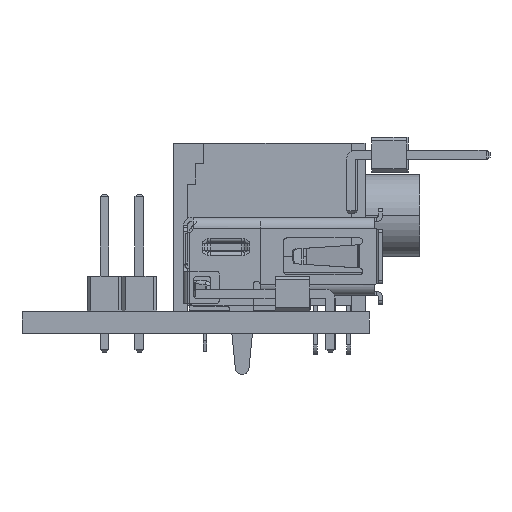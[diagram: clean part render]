
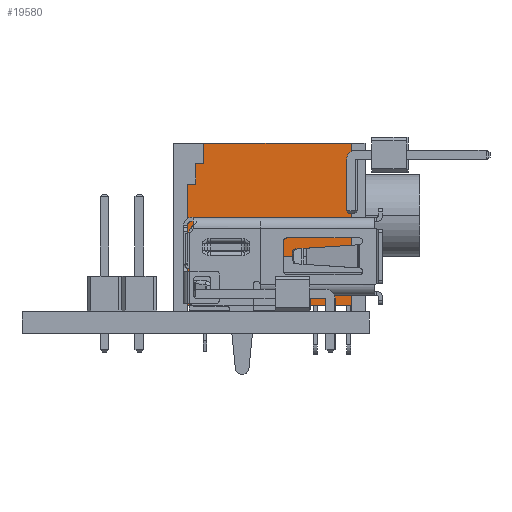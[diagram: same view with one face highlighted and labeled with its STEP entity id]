
A CAD part, left-side view. The second image highlights one B-rep face of the part: STEP entity #19580.
In plain terms, the highlighted planar face has unit normal (-1, 0, 0) as drawn and (0, 1, 0) by its records, which use the part's own axes.
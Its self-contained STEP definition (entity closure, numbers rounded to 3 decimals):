
#18577 = PLANE('',#18578);
#18578 = AXIS2_PLACEMENT_3D('',#18579,#18580,#18581);
#18579 = CARTESIAN_POINT('',(13.,-5.062,7.246));
#18580 = DIRECTION('',(1.,-0.,0.));
#18581 = DIRECTION('',(0.,0.,-1.));
#18605 = PLANE('',#18606);
#18606 = AXIS2_PLACEMENT_3D('',#18607,#18608,#18609);
#18607 = CARTESIAN_POINT('',(13.24,-5.058,6.6));
#18608 = DIRECTION('',(0.,0.,-1.));
#18609 = DIRECTION('',(-1.,0.,0.));
#18633 = PLANE('',#18634);
#18634 = AXIS2_PLACEMENT_3D('',#18635,#18636,#18637);
#18635 = CARTESIAN_POINT('',(1.,-5.062,-2.486));
#18636 = DIRECTION('',(-1.,0.,0.));
#18637 = DIRECTION('',(0.,0.,1.));
#18717 = PLANE('',#18718);
#18718 = AXIS2_PLACEMENT_3D('',#18719,#18720,#18721);
#18719 = CARTESIAN_POINT('',(-0.28,-5.062,-5.3));
#18720 = DIRECTION('',(0.,0.,-1.));
#18721 = DIRECTION('',(0.,1.,0.));
#18861 = VERTEX_POINT('',#18862);
#18862 = CARTESIAN_POINT('',(2.2,3.,-5.3));
#18876 = PLANE('',#18877);
#18877 = AXIS2_PLACEMENT_3D('',#18878,#18879,#18880);
#18878 = CARTESIAN_POINT('',(2.2,2.942,-5.358));
#18879 = DIRECTION('',(-1.,0.,0.));
#18880 = DIRECTION('',(0.,0.,1.));
#18888 = EDGE_CURVE('',#18861,#18889,#18891,.T.);
#18889 = VERTEX_POINT('',#18890);
#18890 = CARTESIAN_POINT('',(13.,3.,-5.3));
#18891 = SURFACE_CURVE('',#18892,(#18896,#18903),.PCURVE_S1.);
#18892 = LINE('',#18893,#18894);
#18893 = CARTESIAN_POINT('',(7.,3.,-5.3));
#18894 = VECTOR('',#18895,1.);
#18895 = DIRECTION('',(1.,0.,0.));
#18896 = PCURVE('',#18717,#18897);
#18897 = DEFINITIONAL_REPRESENTATION('',(#18898),#18902);
#18898 = LINE('',#18899,#18900);
#18899 = CARTESIAN_POINT('',(8.062,7.28));
#18900 = VECTOR('',#18901,1.);
#18901 = DIRECTION('',(0.,1.));
#18902 = ( GEOMETRIC_REPRESENTATION_CONTEXT(2) 
PARAMETRIC_REPRESENTATION_CONTEXT() REPRESENTATION_CONTEXT('2D SPACE',''
  ) );
#18903 = PCURVE('',#18904,#18909);
#18904 = PLANE('',#18905);
#18905 = AXIS2_PLACEMENT_3D('',#18906,#18907,#18908);
#18906 = CARTESIAN_POINT('',(0.76,3.,6.838));
#18907 = DIRECTION('',(-0.,1.,0.));
#18908 = DIRECTION('',(1.,0.,0.));
#18909 = DEFINITIONAL_REPRESENTATION('',(#18910),#18914);
#18910 = LINE('',#18911,#18912);
#18911 = CARTESIAN_POINT('',(6.24,12.138));
#18912 = VECTOR('',#18913,1.);
#18913 = DIRECTION('',(1.,0.));
#18914 = ( GEOMETRIC_REPRESENTATION_CONTEXT(2) 
PARAMETRIC_REPRESENTATION_CONTEXT() REPRESENTATION_CONTEXT('2D SPACE',''
  ) );
#19406 = VERTEX_POINT('',#19407);
#19407 = CARTESIAN_POINT('',(13.,3.,6.6));
#19430 = VERTEX_POINT('',#19431);
#19431 = CARTESIAN_POINT('',(1.,3.,6.6));
#19452 = EDGE_CURVE('',#19430,#19406,#19453,.T.);
#19453 = SURFACE_CURVE('',#19454,(#19458,#19465),.PCURVE_S1.);
#19454 = LINE('',#19455,#19456);
#19455 = CARTESIAN_POINT('',(7.,3.,6.6));
#19456 = VECTOR('',#19457,1.);
#19457 = DIRECTION('',(1.,-0.,-0.));
#19458 = PCURVE('',#18605,#19459);
#19459 = DEFINITIONAL_REPRESENTATION('',(#19460),#19464);
#19460 = LINE('',#19461,#19462);
#19461 = CARTESIAN_POINT('',(6.24,8.058));
#19462 = VECTOR('',#19463,1.);
#19463 = DIRECTION('',(-1.,0.));
#19464 = ( GEOMETRIC_REPRESENTATION_CONTEXT(2) 
PARAMETRIC_REPRESENTATION_CONTEXT() REPRESENTATION_CONTEXT('2D SPACE',''
  ) );
#19465 = PCURVE('',#18904,#19466);
#19466 = DEFINITIONAL_REPRESENTATION('',(#19467),#19471);
#19467 = LINE('',#19468,#19469);
#19468 = CARTESIAN_POINT('',(6.24,0.238));
#19469 = VECTOR('',#19470,1.);
#19470 = DIRECTION('',(1.,0.));
#19471 = ( GEOMETRIC_REPRESENTATION_CONTEXT(2) 
PARAMETRIC_REPRESENTATION_CONTEXT() REPRESENTATION_CONTEXT('2D SPACE',''
  ) );
#19580 = ADVANCED_FACE('',(#19581),#18904,.T.);
#19581 = FACE_BOUND('',#19582,.T.);
#19582 = EDGE_LOOP('',(#19583,#19606,#19607,#19628,#19629,#19652,#19680,
    #19708));
#19583 = ORIENTED_EDGE('',*,*,#19584,.T.);
#19584 = EDGE_CURVE('',#19585,#19430,#19587,.T.);
#19585 = VERTEX_POINT('',#19586);
#19586 = CARTESIAN_POINT('',(1.,3.,-2.3));
#19587 = SURFACE_CURVE('',#19588,(#19592,#19599),.PCURVE_S1.);
#19588 = LINE('',#19589,#19590);
#19589 = CARTESIAN_POINT('',(1.,3.,0.65));
#19590 = VECTOR('',#19591,1.);
#19591 = DIRECTION('',(-0.,-0.,1.));
#19592 = PCURVE('',#18904,#19593);
#19593 = DEFINITIONAL_REPRESENTATION('',(#19594),#19598);
#19594 = LINE('',#19595,#19596);
#19595 = CARTESIAN_POINT('',(0.24,6.188));
#19596 = VECTOR('',#19597,1.);
#19597 = DIRECTION('',(0.,-1.));
#19598 = ( GEOMETRIC_REPRESENTATION_CONTEXT(2) 
PARAMETRIC_REPRESENTATION_CONTEXT() REPRESENTATION_CONTEXT('2D SPACE',''
  ) );
#19599 = PCURVE('',#18633,#19600);
#19600 = DEFINITIONAL_REPRESENTATION('',(#19601),#19605);
#19601 = LINE('',#19602,#19603);
#19602 = CARTESIAN_POINT('',(3.136,8.062));
#19603 = VECTOR('',#19604,1.);
#19604 = DIRECTION('',(1.,0.));
#19605 = ( GEOMETRIC_REPRESENTATION_CONTEXT(2) 
PARAMETRIC_REPRESENTATION_CONTEXT() REPRESENTATION_CONTEXT('2D SPACE',''
  ) );
#19606 = ORIENTED_EDGE('',*,*,#19452,.T.);
#19607 = ORIENTED_EDGE('',*,*,#19608,.T.);
#19608 = EDGE_CURVE('',#19406,#18889,#19609,.T.);
#19609 = SURFACE_CURVE('',#19610,(#19614,#19621),.PCURVE_S1.);
#19610 = LINE('',#19611,#19612);
#19611 = CARTESIAN_POINT('',(13.,3.,0.65));
#19612 = VECTOR('',#19613,1.);
#19613 = DIRECTION('',(0.,0.,-1.));
#19614 = PCURVE('',#18904,#19615);
#19615 = DEFINITIONAL_REPRESENTATION('',(#19616),#19620);
#19616 = LINE('',#19617,#19618);
#19617 = CARTESIAN_POINT('',(12.24,6.188));
#19618 = VECTOR('',#19619,1.);
#19619 = DIRECTION('',(0.,1.));
#19620 = ( GEOMETRIC_REPRESENTATION_CONTEXT(2) 
PARAMETRIC_REPRESENTATION_CONTEXT() REPRESENTATION_CONTEXT('2D SPACE',''
  ) );
#19621 = PCURVE('',#18577,#19622);
#19622 = DEFINITIONAL_REPRESENTATION('',(#19623),#19627);
#19623 = LINE('',#19624,#19625);
#19624 = CARTESIAN_POINT('',(6.596,8.062));
#19625 = VECTOR('',#19626,1.);
#19626 = DIRECTION('',(1.,0.));
#19627 = ( GEOMETRIC_REPRESENTATION_CONTEXT(2) 
PARAMETRIC_REPRESENTATION_CONTEXT() REPRESENTATION_CONTEXT('2D SPACE',''
  ) );
#19628 = ORIENTED_EDGE('',*,*,#18888,.F.);
#19629 = ORIENTED_EDGE('',*,*,#19630,.T.);
#19630 = EDGE_CURVE('',#18861,#19631,#19633,.T.);
#19631 = VERTEX_POINT('',#19632);
#19632 = CARTESIAN_POINT('',(2.2,3.,-3.8));
#19633 = SURFACE_CURVE('',#19634,(#19638,#19645),.PCURVE_S1.);
#19634 = LINE('',#19635,#19636);
#19635 = CARTESIAN_POINT('',(2.2,3.,0.65));
#19636 = VECTOR('',#19637,1.);
#19637 = DIRECTION('',(-0.,-0.,1.));
#19638 = PCURVE('',#18904,#19639);
#19639 = DEFINITIONAL_REPRESENTATION('',(#19640),#19644);
#19640 = LINE('',#19641,#19642);
#19641 = CARTESIAN_POINT('',(1.44,6.188));
#19642 = VECTOR('',#19643,1.);
#19643 = DIRECTION('',(0.,-1.));
#19644 = ( GEOMETRIC_REPRESENTATION_CONTEXT(2) 
PARAMETRIC_REPRESENTATION_CONTEXT() REPRESENTATION_CONTEXT('2D SPACE',''
  ) );
#19645 = PCURVE('',#18876,#19646);
#19646 = DEFINITIONAL_REPRESENTATION('',(#19647),#19651);
#19647 = LINE('',#19648,#19649);
#19648 = CARTESIAN_POINT('',(6.008,0.058));
#19649 = VECTOR('',#19650,1.);
#19650 = DIRECTION('',(1.,0.));
#19651 = ( GEOMETRIC_REPRESENTATION_CONTEXT(2) 
PARAMETRIC_REPRESENTATION_CONTEXT() REPRESENTATION_CONTEXT('2D SPACE',''
  ) );
#19652 = ORIENTED_EDGE('',*,*,#19653,.T.);
#19653 = EDGE_CURVE('',#19631,#19654,#19656,.T.);
#19654 = VERTEX_POINT('',#19655);
#19655 = CARTESIAN_POINT('',(1.6,3.,-3.8));
#19656 = SURFACE_CURVE('',#19657,(#19661,#19668),.PCURVE_S1.);
#19657 = LINE('',#19658,#19659);
#19658 = CARTESIAN_POINT('',(7.,3.,-3.8));
#19659 = VECTOR('',#19660,1.);
#19660 = DIRECTION('',(-1.,-0.,-0.));
#19661 = PCURVE('',#18904,#19662);
#19662 = DEFINITIONAL_REPRESENTATION('',(#19663),#19667);
#19663 = LINE('',#19664,#19665);
#19664 = CARTESIAN_POINT('',(6.24,10.638));
#19665 = VECTOR('',#19666,1.);
#19666 = DIRECTION('',(-1.,0.));
#19667 = ( GEOMETRIC_REPRESENTATION_CONTEXT(2) 
PARAMETRIC_REPRESENTATION_CONTEXT() REPRESENTATION_CONTEXT('2D SPACE',''
  ) );
#19668 = PCURVE('',#19669,#19674);
#19669 = PLANE('',#19670);
#19670 = AXIS2_PLACEMENT_3D('',#19671,#19672,#19673);
#19671 = CARTESIAN_POINT('',(2.258,2.942,-3.8));
#19672 = DIRECTION('',(0.,0.,-1.));
#19673 = DIRECTION('',(-1.,0.,0.));
#19674 = DEFINITIONAL_REPRESENTATION('',(#19675),#19679);
#19675 = LINE('',#19676,#19677);
#19676 = CARTESIAN_POINT('',(-4.742,0.058));
#19677 = VECTOR('',#19678,1.);
#19678 = DIRECTION('',(1.,0.));
#19679 = ( GEOMETRIC_REPRESENTATION_CONTEXT(2) 
PARAMETRIC_REPRESENTATION_CONTEXT() REPRESENTATION_CONTEXT('2D SPACE',''
  ) );
#19680 = ORIENTED_EDGE('',*,*,#19681,.T.);
#19681 = EDGE_CURVE('',#19654,#19682,#19684,.T.);
#19682 = VERTEX_POINT('',#19683);
#19683 = CARTESIAN_POINT('',(1.6,3.,-2.3));
#19684 = SURFACE_CURVE('',#19685,(#19689,#19696),.PCURVE_S1.);
#19685 = LINE('',#19686,#19687);
#19686 = CARTESIAN_POINT('',(1.6,3.,0.65));
#19687 = VECTOR('',#19688,1.);
#19688 = DIRECTION('',(-0.,-0.,1.));
#19689 = PCURVE('',#18904,#19690);
#19690 = DEFINITIONAL_REPRESENTATION('',(#19691),#19695);
#19691 = LINE('',#19692,#19693);
#19692 = CARTESIAN_POINT('',(0.84,6.188));
#19693 = VECTOR('',#19694,1.);
#19694 = DIRECTION('',(0.,-1.));
#19695 = ( GEOMETRIC_REPRESENTATION_CONTEXT(2) 
PARAMETRIC_REPRESENTATION_CONTEXT() REPRESENTATION_CONTEXT('2D SPACE',''
  ) );
#19696 = PCURVE('',#19697,#19702);
#19697 = PLANE('',#19698);
#19698 = AXIS2_PLACEMENT_3D('',#19699,#19700,#19701);
#19699 = CARTESIAN_POINT('',(1.6,2.942,-3.858));
#19700 = DIRECTION('',(-1.,0.,0.));
#19701 = DIRECTION('',(0.,0.,1.));
#19702 = DEFINITIONAL_REPRESENTATION('',(#19703),#19707);
#19703 = LINE('',#19704,#19705);
#19704 = CARTESIAN_POINT('',(4.508,0.058));
#19705 = VECTOR('',#19706,1.);
#19706 = DIRECTION('',(1.,0.));
#19707 = ( GEOMETRIC_REPRESENTATION_CONTEXT(2) 
PARAMETRIC_REPRESENTATION_CONTEXT() REPRESENTATION_CONTEXT('2D SPACE',''
  ) );
#19708 = ORIENTED_EDGE('',*,*,#19709,.T.);
#19709 = EDGE_CURVE('',#19682,#19585,#19710,.T.);
#19710 = SURFACE_CURVE('',#19711,(#19715,#19722),.PCURVE_S1.);
#19711 = LINE('',#19712,#19713);
#19712 = CARTESIAN_POINT('',(7.,3.,-2.3));
#19713 = VECTOR('',#19714,1.);
#19714 = DIRECTION('',(-1.,-0.,-0.));
#19715 = PCURVE('',#18904,#19716);
#19716 = DEFINITIONAL_REPRESENTATION('',(#19717),#19721);
#19717 = LINE('',#19718,#19719);
#19718 = CARTESIAN_POINT('',(6.24,9.138));
#19719 = VECTOR('',#19720,1.);
#19720 = DIRECTION('',(-1.,0.));
#19721 = ( GEOMETRIC_REPRESENTATION_CONTEXT(2) 
PARAMETRIC_REPRESENTATION_CONTEXT() REPRESENTATION_CONTEXT('2D SPACE',''
  ) );
#19722 = PCURVE('',#19723,#19728);
#19723 = PLANE('',#19724);
#19724 = AXIS2_PLACEMENT_3D('',#19725,#19726,#19727);
#19725 = CARTESIAN_POINT('',(1.658,2.942,-2.3));
#19726 = DIRECTION('',(0.,0.,-1.));
#19727 = DIRECTION('',(-1.,0.,0.));
#19728 = DEFINITIONAL_REPRESENTATION('',(#19729),#19733);
#19729 = LINE('',#19730,#19731);
#19730 = CARTESIAN_POINT('',(-5.342,0.058));
#19731 = VECTOR('',#19732,1.);
#19732 = DIRECTION('',(1.,0.));
#19733 = ( GEOMETRIC_REPRESENTATION_CONTEXT(2) 
PARAMETRIC_REPRESENTATION_CONTEXT() REPRESENTATION_CONTEXT('2D SPACE',''
  ) );
